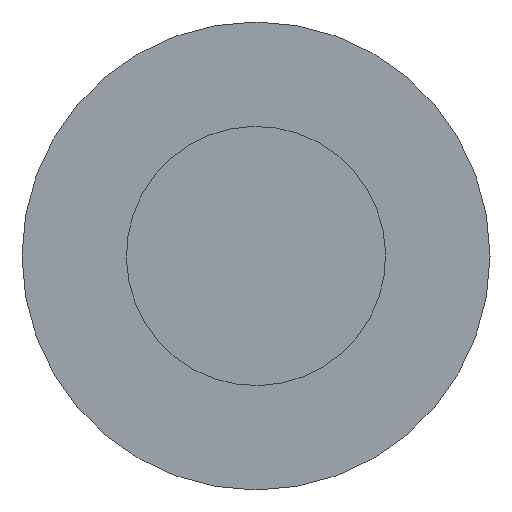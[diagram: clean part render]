
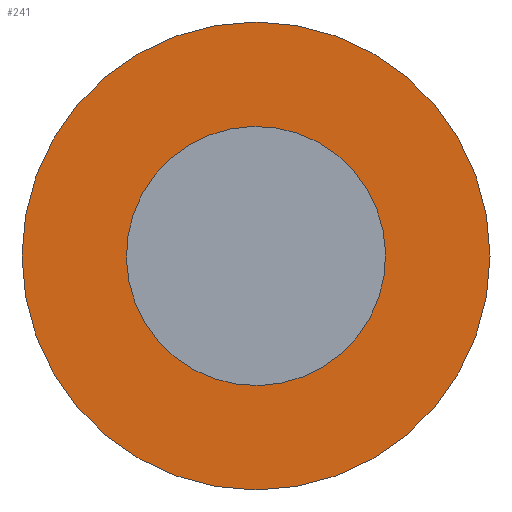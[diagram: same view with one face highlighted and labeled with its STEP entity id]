
A CAD part, front view. The second image highlights one B-rep face of the part: STEP entity #241.
In plain terms, the highlighted planar face has unit normal (0, -1, 0).
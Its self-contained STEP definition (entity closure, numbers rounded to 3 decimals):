
#180=CARTESIAN_POINT('Vertex',(65.489,0.,12.735)) ;
#183=CARTESIAN_POINT('Axis2P3D Location',(59.489,0.,12.735)) ;
#187=CARTESIAN_POINT('Vertex',(53.489,0.,12.735)) ;
#202=CARTESIAN_POINT('Axis2P3D Location',(59.489,0.,12.735)) ;
#214=CARTESIAN_POINT('Axis2P3D Location',(0.,0.,0.)) ;
#223=CARTESIAN_POINT('Axis2P3D Location',(59.489,0.,12.735)) ;
#227=CARTESIAN_POINT('Vertex',(56.572,0.,14.328)) ;
#229=CARTESIAN_POINT('Vertex',(62.405,0.,11.142)) ;
#232=CARTESIAN_POINT('Axis2P3D Location',(59.489,0.,12.735)) ;
#184=DIRECTION('Axis2P3D Direction',(0.,1.,0.)) ;
#203=DIRECTION('Axis2P3D Direction',(0.,1.,0.)) ;
#215=DIRECTION('Axis2P3D Direction',(0.,1.,-0.)) ;
#216=DIRECTION('Axis2P3D XDirection',(-1.,0.,0.)) ;
#224=DIRECTION('Axis2P3D Direction',(0.,1.,-0.)) ;
#233=DIRECTION('Axis2P3D Direction',(0.,1.,-0.)) ;
#185=AXIS2_PLACEMENT_3D('Circle Axis2P3D',#183,#184,$) ;
#204=AXIS2_PLACEMENT_3D('Circle Axis2P3D',#202,#203,$) ;
#217=AXIS2_PLACEMENT_3D('Plane Axis2P3D',#214,#215,#216) ;
#225=AXIS2_PLACEMENT_3D('Circle Axis2P3D',#223,#224,$) ;
#234=AXIS2_PLACEMENT_3D('Circle Axis2P3D',#232,#233,$) ;
#220=ORIENTED_EDGE('',*,*,#189,.F.) ;
#221=ORIENTED_EDGE('',*,*,#206,.F.) ;
#238=ORIENTED_EDGE('',*,*,#231,.T.) ;
#239=ORIENTED_EDGE('',*,*,#236,.T.) ;
#240=FACE_BOUND('',#237,.T.) ;
#241=ADVANCED_FACE('Corps principal',(#222,#240),#218,.F.) ;
#186=CIRCLE('generated circle',#185,6.) ;
#205=CIRCLE('generated circle',#204,6.) ;
#226=CIRCLE('generated circle',#225,3.324) ;
#235=CIRCLE('generated circle',#234,3.324) ;
#189=EDGE_CURVE('',#181,#188,#186,.T.) ;
#206=EDGE_CURVE('',#188,#181,#205,.T.) ;
#231=EDGE_CURVE('',#228,#230,#226,.T.) ;
#236=EDGE_CURVE('',#230,#228,#235,.T.) ;
#219=EDGE_LOOP('',(#220,#221)) ;
#237=EDGE_LOOP('',(#238,#239)) ;
#222=FACE_OUTER_BOUND('',#219,.T.) ;
#218=PLANE('Plane',#217) ;
#181=VERTEX_POINT('',#180) ;
#188=VERTEX_POINT('',#187) ;
#228=VERTEX_POINT('',#227) ;
#230=VERTEX_POINT('',#229) ;
